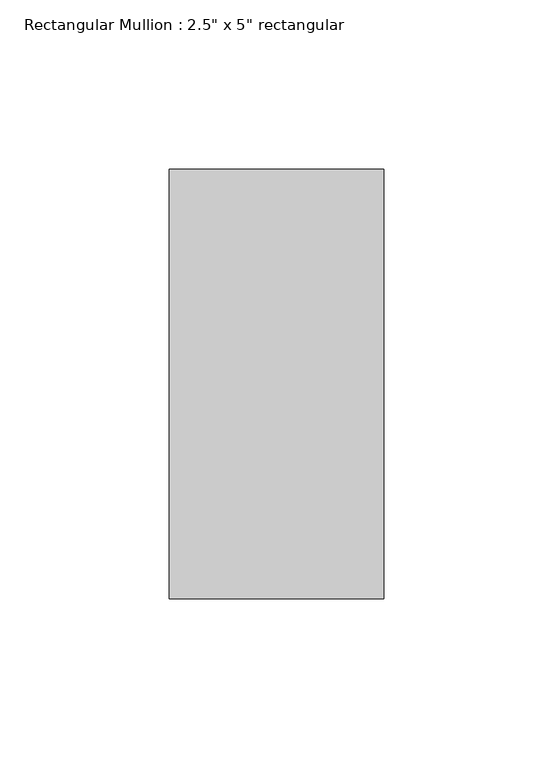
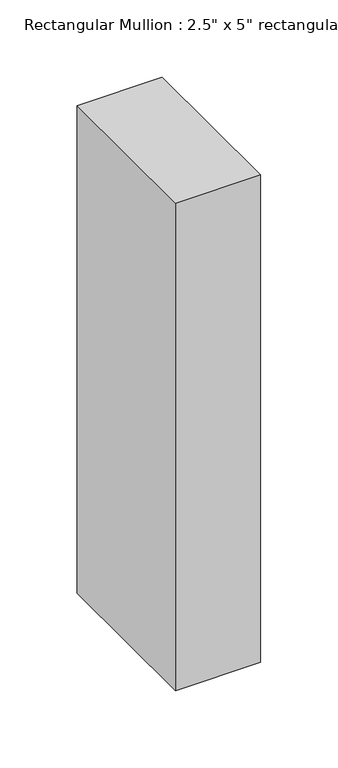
"""IFC4 building model written with IfcOpenShell, lengths in millimetres: member geometry."""

from ifc_helpers import new_model, si_unit, frame, origin, place, context, project, spatial, polyline, outline, extrude, source, transform, mapped, element, save


def member_fc8dcb27(model_context):
    return source(origin(), model_context, "Body", "SweptSolid", [
        extrude(outline(polyline([(0.0, 63.5), (0.0, -63.5), (-63.5, -63.5), (-63.5, 63.5), (0.0, 63.5)])), frame((0.0, 0.0, -384.6285714), z_axis=(0.0, 0.0, 1.0), x_axis=(1.0, 0.0, 0.0)), (0.0, 0.0, 1.0), 384.6285714),
    ])


if __name__ == "__main__":
    model = new_model("IFC4")
    model_context = context("Model", 3, world=origin())
    ifc_project = project(units=[si_unit("LENGTHUNIT", "METRE", prefix="MILLI")], contexts=[model_context])
    site = spatial("IfcSite", under=ifc_project)
    building = spatial("IfcBuilding", under=site)
    placement = place(None, origin())
    member_shape = member_fc8dcb27(model_context)
    element("IfcMember", 1, ObjectType="Rectangular Mullion : 2.5\" x 5\" rectangular", at=placement, inside=building, context=model_context, shape_type="MappedRepresentation", body=[
        mapped(member_shape, transform((0.0, 0.0, 0.0), x_axis=(1.0, 0.0, 0.0), y_axis=(0.0, 1.0, 0.0), z_axis=(0.0, 0.0, 1.0))),
    ])
    save(model, "model.ifc")
